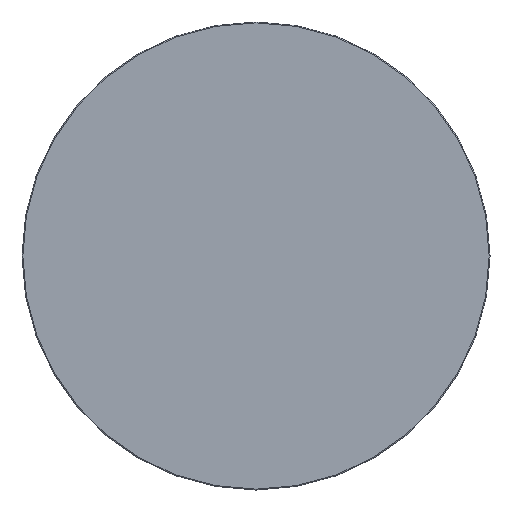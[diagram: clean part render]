
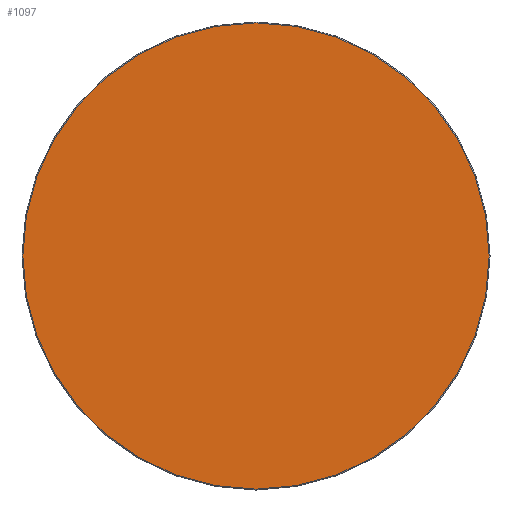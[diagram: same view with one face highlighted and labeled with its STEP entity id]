
A CAD part, left-side view. The second image highlights one B-rep face of the part: STEP entity #1097.
In plain terms, the highlighted planar face has unit normal (-1, 0, 0).
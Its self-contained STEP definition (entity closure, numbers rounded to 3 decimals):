
#1074=CARTESIAN_POINT('',(0.0,274.0,0.0));
#1075=VERTEX_POINT('',#1074);
#1076=CARTESIAN_POINT('',(0.0,0.0,0.0));
#1077=DIRECTION('',(1.0,0.0,0.0));
#1078=DIRECTION('',(0.0,-1.0,0.0));
#1079=AXIS2_PLACEMENT_3D('',#1076,#1077,#1078);
#1080=CIRCLE('',#1079,274.0);
#1081=EDGE_CURVE('',#1075,#1075,#1080,.T.);
#1089=CARTESIAN_POINT('',(0.0,195.319,0.));
#1090=DIRECTION('',(-1.0,0.0,0.0));
#1091=DIRECTION('',(0.0,0.0,1.0));
#1092=AXIS2_PLACEMENT_3D('',#1089,#1090,#1091);
#1093=PLANE('',#1092);
#1094=ORIENTED_EDGE('',*,*,#1081,.F.);
#1095=EDGE_LOOP('',(#1094));
#1096=FACE_OUTER_BOUND('',#1095,.T.);
#1097=ADVANCED_FACE('',(#1096),#1093,.T.);
